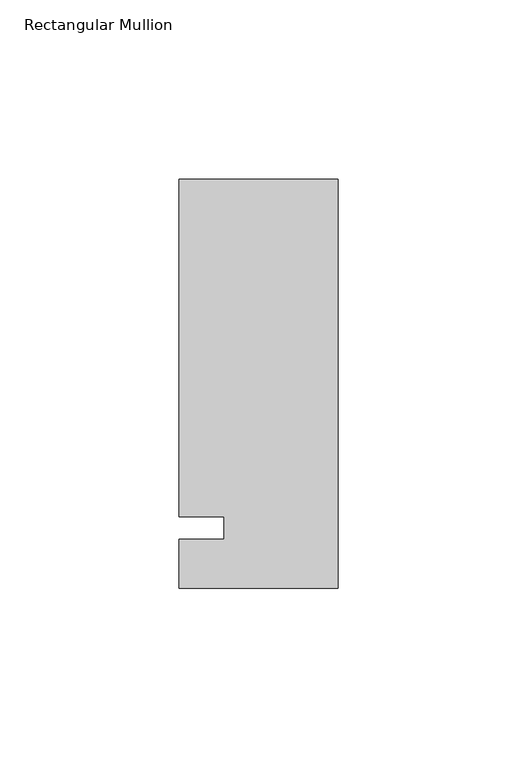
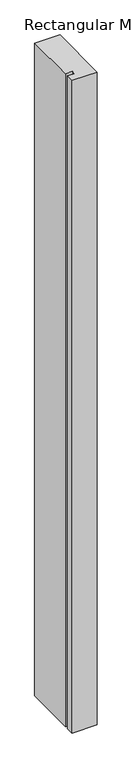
"""IFC4 building model written with IfcOpenShell, lengths in millimetres: member geometry, Rectangular Mullion : Kawneer-TRIFAB_VG_450_BACK_SB_Jamb R."""

from ifc_helpers import new_model, si_unit, frame, origin, place, context, project, spatial, polyline, outline, extrude, source, transform, mapped, element, save


def rectangular_mullion_87c65740(model_context):
    return source(origin(), model_context, "Body", "SweptSolid", [
        extrude(outline(polyline([(-44.45, -16.8081154), (-44.45, -3.175), (-31.7482296, -3.175), (-31.7482296, 3.175), (-44.45, 3.175), (-44.45, 97.4918846), (0.0, 97.4918846), (0.0, -16.8081154), (-44.45, -16.8081154)])), frame((0.0, 0.0, -1219.2), z_axis=(0.0, 0.0, 1.0), x_axis=(1.0, 0.0, 0.0)), (0.0, 0.0, 1.0), 1219.2),
    ])


if __name__ == "__main__":
    model = new_model("IFC4")
    model_context = context("Model", 3, world=origin())
    ifc_project = project(units=[si_unit("LENGTHUNIT", "METRE", prefix="MILLI")], contexts=[model_context])
    site = spatial("IfcSite", under=ifc_project)
    building = spatial("IfcBuilding", under=site)
    placement = place(None, origin())
    rectangular_mullion_shape = rectangular_mullion_87c65740(model_context)
    element("IfcMember", 1, ObjectType="Rectangular Mullion : Kawneer-TRIFAB_VG_450_BACK_SB_Jamb R", at=placement, inside=building, context=model_context, shape_type="MappedRepresentation", body=[
        mapped(rectangular_mullion_shape, transform((0.0, 0.0, 0.0), x_axis=(1.0, 0.0, 0.0), y_axis=(0.0, 1.0, 0.0), z_axis=(0.0, 0.0, 1.0))),
    ])
    save(model, "model.ifc")
